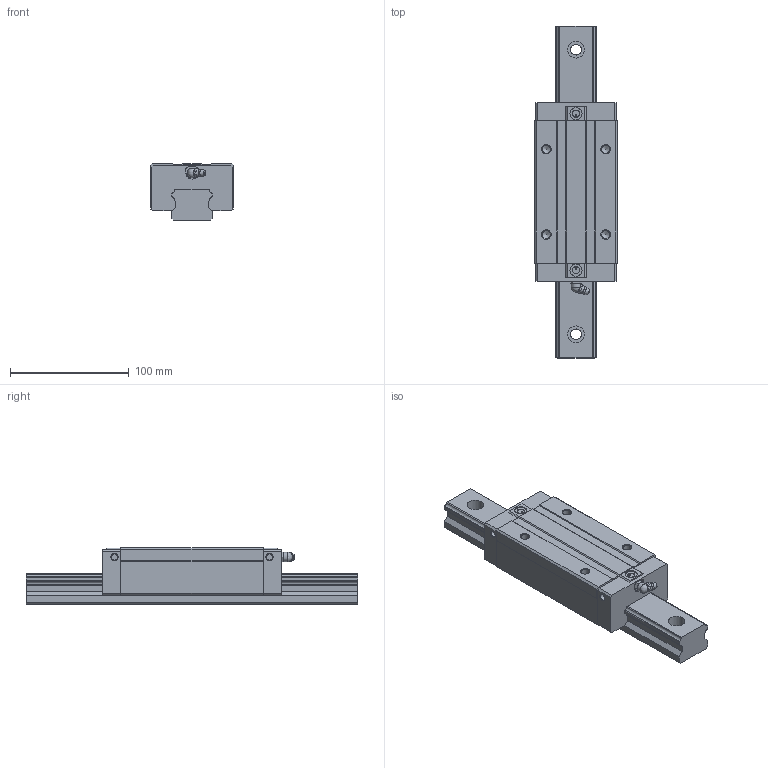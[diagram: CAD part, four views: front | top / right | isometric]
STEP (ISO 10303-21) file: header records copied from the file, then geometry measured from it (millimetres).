
FILE_DESCRIPTION(/* description */ (''),/* implementation_level */ '2;1');
FILE_NAME(/* name */ 'SME35-LSB',/* time_stamp */ '2008-10-06T10:33:25+08:00',/* author */ (''),/* organization */ (''),/* preprocessor_version */ 'ST-DEVELOPER v11',/* originating_system */ 'UGS - NX 5.0',/* authorisation */ '');
FILE_SCHEMA (('AUTOMOTIVE_DESIGN { 1 0 10303 214 1 1 1 1 }'));
Length unit declared in the file: millimetre
Products named in the file (1): jillBD1Calnl
Bounding box: 70 x 280 x 48 mm (x, y, z)
Volume: 544877 mm3; surface area: 83780.3 mm2
Topology: 3 solids, 3 shells, 187 faces, 483 edges, 318 vertices
Faces by surface type: plane 113, cylinder 49, cone 13, torus 7, sphere 4, bspline 1
Full cylindrical faces by diameter (mm): 5.2 x4, 6 x2, 6.5 x2, 6.8 x4, 8 x1, 9 x4, 10.2 x2, 14 x4
Entity records: 5719 total; most frequent: CARTESIAN_POINT 1076, DIRECTION 902, ORIENTED_EDGE 842, EDGE_CURVE 421, AXIS2_PLACEMENT_3D 312, VERTEX_POINT 302, LINE 278, VECTOR 278
